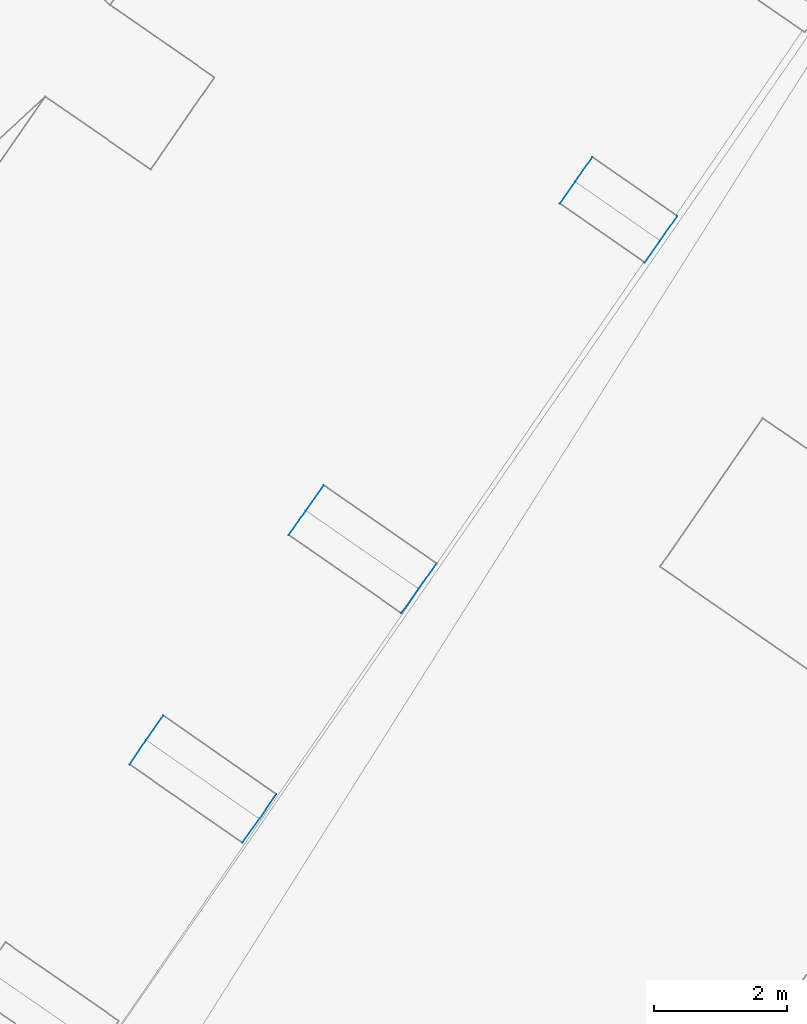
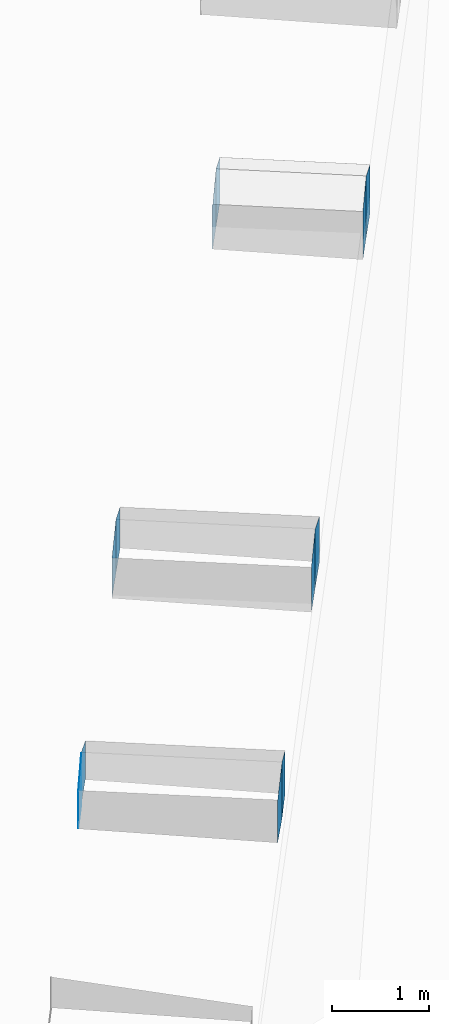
# Not in any storey, part 86 of 136: 12 walls.
"""IFC2X3 building model written with IfcOpenShell, lengths in metres."""

import ifcopenshell
import ifcopenshell.guid

model = None  # the IFC model being written
_history = None  # IfcOwnerHistory: only IFC2X3 demands one
_inside = {}  # id of a spatial element -> (the spatial element, [elements in it])
_under = {}  # id of a project, library or spatial element -> (it, [spatial elements below it])
_declared = {}  # id of a project -> (the project, [libraries it declares])
_typed = {}  # id of a type object -> (the type object, [elements of that type])
_made_of = {}  # id of a material, layer set ... -> (it, [elements and type objects made of it])


def new_model(schema):
    """Start an empty IFC model of exactly this schema.

    Asked for "IFC4X3", IfcOpenShell would pick the latest addendum, in which some entities
    have other attributes; the version numbers below select the first issue.
    IFC2X3 requires an IfcOwnerHistory on every rooted entity: one is made here for all.
    """
    global model, _history
    if schema == "IFC4X3":
        model = ifcopenshell.file(schema_version=(4, 3, 0, 0))
    else:
        model = ifcopenshell.file(schema=schema)
    _inside.clear()
    _under.clear()
    _declared.clear()
    _typed.clear()
    _made_of.clear()
    _history = None
    if model.schema == "IFC2X3":
        org = make("IfcOrganization", Name="unknown")
        user = make(
            "IfcPersonAndOrganization",
            ThePerson=make("IfcPerson", FamilyName="unknown"),
            TheOrganization=org,
        )
        app = make(
            "IfcApplication",
            ApplicationDeveloper=org,
            Version="unknown",
            ApplicationFullName="unknown",
            ApplicationIdentifier="unknown",
        )
        _history = make(
            "IfcOwnerHistory",
            OwningUser=user,
            OwningApplication=app,
            ChangeAction="ADDED",
            CreationDate=0,
        )
    return model


def make(cls, **values):
    """One entity of the class cls with the attributes given. An attribute that is None is left unset."""
    return model.create_entity(
        cls, **{name: value for name, value in values.items() if value is not None}
    )


def entity(cls, *values):
    """Any entity or typed value of the class cls, its attributes in the order of the schema. None: left unset."""
    e = model.create_entity(cls)
    for i, value in enumerate(values):
        if value is not None:
            e[i] = value
    return e


def rooted(cls, **values):
    """An entity with a GlobalId (a new one), such as an element, a storey or a relation."""
    return make(cls, GlobalId=ifcopenshell.guid.new(), OwnerHistory=_history, **values)


def si_unit(unit_type, name, prefix=None):
    """IfcSIUnit, for example si_unit("LENGTHUNIT", "METRE", prefix="MILLI")."""
    return make("IfcSIUnit", UnitType=unit_type, Prefix=prefix, Name=name)


def converted_unit(unit_type, name, factor, base, dimensions=None, offset=None):
    """IfcConversionBasedUnit, such as the inch: factor (a typed value) times the base unit."""
    return make(
        "IfcConversionBasedUnit"
        if offset is None
        else "IfcConversionBasedUnitWithOffset",
        ConversionOffset=offset,
        Dimensions=None
        if dimensions is None
        else entity("IfcDimensionalExponents", *dimensions),
        UnitType=unit_type,
        Name=name,
        ConversionFactor=make(
            "IfcMeasureWithUnit", ValueComponent=factor, UnitComponent=base
        ),
    )


def assignment(units):
    """IfcUnitAssignment: the units of a project."""
    return None if units is None else make("IfcUnitAssignment", Units=units)


def point(xyz):
    """IfcCartesianPoint."""
    return None if xyz is None else make("IfcCartesianPoint", Coordinates=xyz)


def direction(xyz):
    """IfcDirection."""
    return None if xyz is None else make("IfcDirection", DirectionRatios=xyz)


def frame(location, z_axis=None, x_axis=None):
    """IfcAxis2Placement3D, a coordinate frame: its origin and axes. An axis left out is left unset."""
    return make(
        "IfcAxis2Placement3D",
        Location=point(location),
        Axis=direction(z_axis),
        RefDirection=direction(x_axis),
    )


def origin():
    """The frame at (0, 0, 0) with its axes left unset."""
    return frame((0.0, 0.0, 0.0))


def place(relative_to, where):
    """IfcLocalPlacement: puts the frame where relative to a parent placement (None: the world)."""
    return make(
        "IfcLocalPlacement", PlacementRelTo=relative_to, RelativePlacement=where
    )


def context(
    kind, dimensions, precision=None, world=None, true_north=None, identifier=None
):
    """IfcGeometricRepresentationContext, for example the 3D "Model" context."""
    return make(
        "IfcGeometricRepresentationContext",
        ContextIdentifier=identifier,
        ContextType=kind,
        CoordinateSpaceDimension=dimensions,
        Precision=precision,
        WorldCoordinateSystem=world,
        TrueNorth=true_north,
    )


def subcontext(parent, identifier, kind, view, scale=None):
    """IfcGeometricRepresentationSubContext, for example "Body" below "Model"."""
    return make(
        "IfcGeometricRepresentationSubContext",
        ContextIdentifier=identifier,
        ContextType=kind,
        ParentContext=parent,
        TargetScale=scale,
        TargetView=view,
    )


def project(units=None, contexts=None):
    """IfcProject with its units and contexts."""
    return rooted(
        "IfcProject",
        Name="project",
        RepresentationContexts=contexts,
        UnitsInContext=assignment(units),
    )


def spatial(cls, under=None, at=None, **own):
    """A site, building, storey or space (cls), placed at a placement, below another one or the project."""
    s = rooted(cls, ObjectPlacement=at, **own)
    if under is not None:
        _under.setdefault(under.id(), (under, []))[1].append(s)
    return s


def faces_of(points, faces, orient=None, outer=None):
    """IfcFace entities. A face is a list of loops; a loop is a list of indices into points, from 0.

    orient and outer hold one flag for each loop. By default every Orientation is true, the
    first loop of a face is its IfcFaceOuterBound and the others are IfcFaceBound.
    """
    made = []
    for i, loops in enumerate(faces):
        bounds = []
        for j, loop in enumerate(loops):
            is_outer = j == 0 if outer is None else outer[i][j]
            bounds.append(
                make(
                    "IfcFaceOuterBound" if is_outer else "IfcFaceBound",
                    Bound=make("IfcPolyLoop", Polygon=[points[k] for k in loop]),
                    Orientation=True if orient is None else orient[i][j],
                )
            )
        made.append(make("IfcFace", Bounds=bounds))
    return made


def face_set(faces, orient=None, outer=None):
    """The faces of one IfcConnectedFaceSet. surface_model builds it on its shared points."""
    return ("IfcConnectedFaceSet", faces, orient, outer)


def surface_model(cls, points, shells):
    """IfcFaceBasedSurfaceModel or IfcShellBasedSurfaceModel (cls): surfaces that need not close."""
    shared = [point(p) for p in points]
    made = [make(c, CfsFaces=faces_of(shared, fs, o, b)) for c, fs, o, b in shells]
    if cls == "IfcFaceBasedSurfaceModel":
        return make(cls, FbsmFaces=made)
    return make(cls, SbsmBoundary=made)


def shape(context_of_items, identifier, shape_type, items):
    """IfcShapeRepresentation: the items that make up one representation, for example the "Body"."""
    return make(
        "IfcShapeRepresentation",
        ContextOfItems=context_of_items,
        RepresentationIdentifier=identifier,
        RepresentationType=shape_type,
        Items=items,
    )


def made_of(thing, what):
    """Note that an element or type object is made of a material, layer set ...; save() writes the relation."""
    if what is not None:
        _made_of.setdefault(what.id(), (what, []))[1].append(thing)
    return thing


def element(
    cls,
    number,
    at=None,
    inside=None,
    cuts=None,
    type_object=None,
    material=None,
    context=None,
    identifier="Body",
    shape_type=None,
    held_by="IfcProductDefinitionShape",
    body=None,
    shapes=None,
    **own,
):
    """One element of the class cls, such as IfcWall. Its Tag is "e" and its number.

    at: its placement. inside: the storey or other place that contains it. cuts: it is an
    opening in that element (IfcRelVoidsElement). A single representation is given by context,
    identifier, shape_type and body (its items); several are given by shapes. held_by: the class
    of the entity that holds the representations. save() writes the other relations.
    """
    e = rooted(cls, Tag="e%d" % number, ObjectPlacement=at, **own)
    if body is not None:
        shapes = [shape(context, identifier, shape_type, body)]
    if shapes is not None:
        e.Representation = make(held_by, Representations=shapes)
    if inside is not None:
        _inside.setdefault(inside.id(), (inside, []))[1].append(e)
    if cuts is not None:
        rooted(
            "IfcRelVoidsElement", RelatingBuildingElement=cuts, RelatedOpeningElement=e
        )
    if type_object is not None:
        _typed.setdefault(type_object.id(), (type_object, []))[1].append(e)
    return made_of(e, material)


def aggregate(whole, parts):
    """IfcRelAggregates: a whole, such as a stair, and the parts it consists of."""
    return rooted("IfcRelAggregates", RelatingObject=whole, RelatedObjects=parts)


def save(model, path):
    """Write the relations noted so far, then the file.

    IfcRelAggregates (storeys below a building ...), IfcRelContainedInSpatialStructure (elements
    in a storey), IfcRelDefinesByType, IfcRelAssociatesMaterial and IfcRelDeclares: one each for
    every whole, place, type object, material and project.
    """
    for whole, parts in _under.values():
        aggregate(whole, parts)
    for where, things in _inside.values():
        rooted(
            "IfcRelContainedInSpatialStructure",
            RelatedElements=things,
            RelatingStructure=where,
        )
    for kind, things in _typed.values():
        rooted("IfcRelDefinesByType", RelatedObjects=things, RelatingType=kind)
    for what, things in _made_of.values():
        rooted("IfcRelAssociatesMaterial", RelatedObjects=things, RelatingMaterial=what)
    for by, libraries in _declared.values():
        rooted("IfcRelDeclares", RelatingContext=by, RelatedDefinitions=libraries)
    model.write(path)


model = new_model("IFC2X3")

# Units and contexts
model_context = context("Model", 3, precision=1e-05, world=origin())
body_context = subcontext(model_context, "Body", "Model", "MODEL_VIEW")
ifc_project = project(units=[converted_unit("PLANEANGLEUNIT", "DEGREE", entity("IfcRatioMeasure", 0.0174532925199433), si_unit("PLANEANGLEUNIT", "RADIAN"), dimensions=[0, 0, 0, 0, 0, 0, 0]), si_unit("AREAUNIT", "SQUARE_METRE"), si_unit("LENGTHUNIT", "METRE")], contexts=[model_context])

# Site, building
site_placement = place(None, origin())
site = spatial("IfcSite", under=ifc_project, at=site_placement, Name="_site", CompositionType="ELEMENT")
building_placement = place(site_placement, origin())
building = spatial("IfcBuilding", under=site, at=building_placement, Name="_building", CompositionType="ELEMENT")

# Walls
wall_1_placement = place(building_placement, origin())
element("IfcWall", 1, at=wall_1_placement, inside=building, Name="Wall", context=body_context, shape_type="SurfaceModel", body=[
    surface_model("IfcFaceBasedSurfaceModel", [(-13.18, 56.01, 54.52), (-12.92, 56.38, 54.35), (-12.92, 56.38, 53.779), (-13.18, 56.01, 53.782)], [face_set([[[0, 1, 2, 3]]])]),
])
wall_2_placement = place(building_placement, origin())
element("IfcWall", 2, at=wall_2_placement, inside=building, Name="Wall", context=body_context, shape_type="SurfaceModel", body=[
    surface_model("IfcFaceBasedSurfaceModel", [(-11.64, 55.49, 54.35), (-11.9, 55.12, 54.52), (-11.9, 55.12, 53.74), (-11.64, 55.49, 53.737)], [face_set([[[0, 1, 2, 3]]])]),
])
wall_3_placement = place(building_placement, origin())
element("IfcWall", 3, at=wall_3_placement, inside=building, Name="Wall", context=body_context, shape_type="SurfaceModel", body=[
    surface_model("IfcFaceBasedSurfaceModel", [(-15.27, 50.25, 54.35), (-15.54, 49.87, 54.52), (-15.54, 49.87, 53.779), (-15.27, 50.25, 53.776)], [face_set([[[0, 1, 2, 3]]])]),
])
wall_4_placement = place(building_placement, origin())
element("IfcWall", 4, at=wall_4_placement, inside=building, Name="Wall", context=body_context, shape_type="SurfaceModel", body=[
    surface_model("IfcFaceBasedSurfaceModel", [(-19.65, 47.59, 54.52), (-19.39, 47.96, 54.35), (-19.39, 47.96, 53.858), (-19.65, 47.59, 53.861)], [face_set([[[0, 1, 2, 3]]])]),
])
wall_5_placement = place(building_placement, origin())
element("IfcWall", 5, at=wall_5_placement, inside=building, Name="Wall", context=body_context, shape_type="SurfaceModel", body=[
    surface_model("IfcFaceBasedSurfaceModel", [(-17.24, 51.05, 54.52), (-16.97, 51.43, 54.35), (-16.97, 51.43, 53.832), (-17.24, 51.05, 53.835)], [face_set([[[0, 1, 2, 3]]])]),
])
wall_6_placement = place(building_placement, origin())
element("IfcWall", 6, at=wall_6_placement, inside=building, Name="Wall", context=body_context, shape_type="SurfaceModel", body=[
    surface_model("IfcFaceBasedSurfaceModel", [(-17.69, 46.771, 54.35), (-17.94, 46.4, 54.52), (-17.94, 46.4, 53.805), (-17.69, 46.771, 53.803)], [face_set([[[0, 1, 2, 3]]])]),
])
wall_7_placement = place(building_placement, origin())
element("IfcWall", 7, at=wall_7_placement, inside=building, Name="Wall", context=body_context, shape_type="SurfaceModel", body=[
    surface_model("IfcFaceBasedSurfaceModel", [(-13.41, 55.68, 54.35), (-13.18, 56.01, 54.52), (-13.18, 56.01, 53.782), (-13.41, 55.68, 53.784)], [face_set([[[0, 1, 2, 3]]])]),
])
wall_8_placement = place(building_placement, origin())
element("IfcWall", 8, at=wall_8_placement, inside=building, Name="Wall", context=body_context, shape_type="SurfaceModel", body=[
    surface_model("IfcFaceBasedSurfaceModel", [(-17.5, 50.68, 54.35), (-17.24, 51.05, 54.52), (-17.24, 51.05, 53.835), (-17.5, 50.68, 53.838)], [face_set([[[0, 1, 2, 3]]])]),
])
wall_9_placement = place(building_placement, origin())
element("IfcWall", 9, at=wall_9_placement, inside=building, Name="Wall", context=body_context, shape_type="SurfaceModel", body=[
    surface_model("IfcFaceBasedSurfaceModel", [(-15.54, 49.87, 54.52), (-15.8, 49.5, 54.35), (-15.8, 49.5, 53.782), (-15.54, 49.87, 53.779)], [face_set([[[0, 1, 2, 3]]])]),
])
wall_10_placement = place(building_placement, origin())
element("IfcWall", 10, at=wall_10_placement, inside=building, Name="Wall", context=body_context, shape_type="SurfaceModel", body=[
    surface_model("IfcFaceBasedSurfaceModel", [(-11.9, 55.12, 54.52), (-12.13, 54.79, 54.35), (-12.13, 54.79, 53.742), (-11.9, 55.12, 53.74)], [face_set([[[0, 1, 2, 3]]])]),
])
wall_11_placement = place(building_placement, origin())
element("IfcWall", 11, at=wall_11_placement, inside=building, Name="Wall", context=body_context, shape_type="SurfaceModel", body=[
    surface_model("IfcFaceBasedSurfaceModel", [(-17.94, 46.4, 54.52), (-18.2, 46.04, 54.35), (-18.2, 46.04, 53.808), (-17.94, 46.4, 53.805)], [face_set([[[0, 1, 2, 3]]])]),
])
wall_12_placement = place(building_placement, origin())
element("IfcWall", 12, at=wall_12_placement, inside=building, Name="Wall", context=body_context, shape_type="SurfaceModel", body=[
    surface_model("IfcFaceBasedSurfaceModel", [(-19.9, 47.22, 54.35), (-19.65, 47.59, 54.52), (-19.65, 47.59, 53.861), (-19.9, 47.22, 53.864)], [face_set([[[0, 1, 2, 3]]])]),
])

save(model, "model.ifc")
